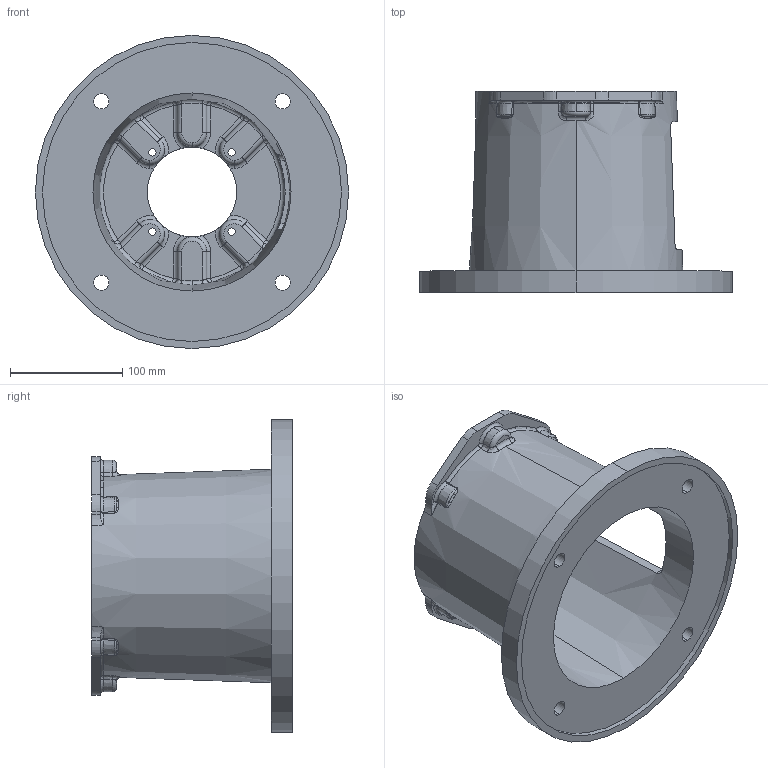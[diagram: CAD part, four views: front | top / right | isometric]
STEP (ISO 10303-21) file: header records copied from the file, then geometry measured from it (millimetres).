
FILE_DESCRIPTION (( 'STEP AP203' ), '1' );
FILE_NAME ('M2846880MS.STEP', '2015-01-19T16:33:11', ( '' ), ( '' ), 'SwSTEP 2.0', 'SolidWorks 2014', '' );
FILE_SCHEMA (( 'CONFIG_CONTROL_DESIGN' ));
Length unit declared in the file: inch
Products named in the file (1): M2846880MS
Bounding box: 279.4 x 179.32 x 279.4 mm (x, y, z)
Volume: 1415549.5 mm3; surface area: 314266 mm2
Topology: 1 solids, 1 shells, 335 faces, 841 edges, 490 vertices
Faces by surface type: torus 97, cylinder 82, bspline 64, plane 50, sphere 24, cone 18
Entity records: 13745 total; most frequent: CARTESIAN_POINT 6097, ORIENTED_EDGE 1642, DIRECTION 1606, EDGE_CURVE 821, AXIS2_PLACEMENT_3D 725, VERTEX_POINT 490, CIRCLE 453, EDGE_LOOP 357
